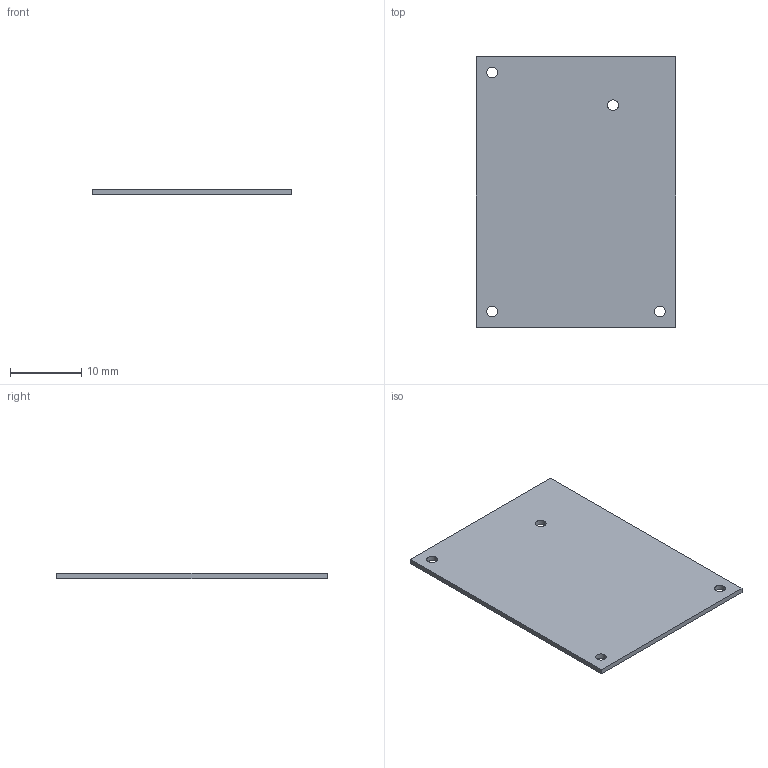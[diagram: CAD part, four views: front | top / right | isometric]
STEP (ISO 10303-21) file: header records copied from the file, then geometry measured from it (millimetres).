
FILE_DESCRIPTION(('KiCad electronic assembly'),'2;1');
FILE_NAME('hockey_sensor_pcba.step','2026-11-25T19:16:05',('Pcbnew'),( 'Kicad'),'Open CASCADE STEP processor 7.9','KiCad to STEP converter' ,'Unknown');
FILE_SCHEMA(('AUTOMOTIVE_DESIGN { 1 0 10303 214 1 1 1 1 }'));
Length unit declared in the file: millimetre
Products named in the file (2): hockey_sensor_pcba 1; hockey_sensor_PCB
Assembly tree (1 placements, depth 2):
  hockey_sensor_pcba 1
    hockey_sensor_PCB
Bounding box: 28 x 38 x 0.71 mm (x, y, z)
Volume: 750.4 mm3; surface area: 2221 mm2
Topology: 1 solids, 1 shells, 10 faces, 24 edges, 16 vertices
Faces by surface type: plane 6, cylinder 4
Full cylindrical faces by diameter (mm): 1.5 x4
Entity records: 349 total; most frequent: DIRECTION 56, CARTESIAN_POINT 52, ORIENTED_EDGE 48, EDGE_CURVE 24, AXIS2_PLACEMENT_3D 20, FACE_BOUND 18, EDGE_LOOP 18, VERTEX_POINT 16
